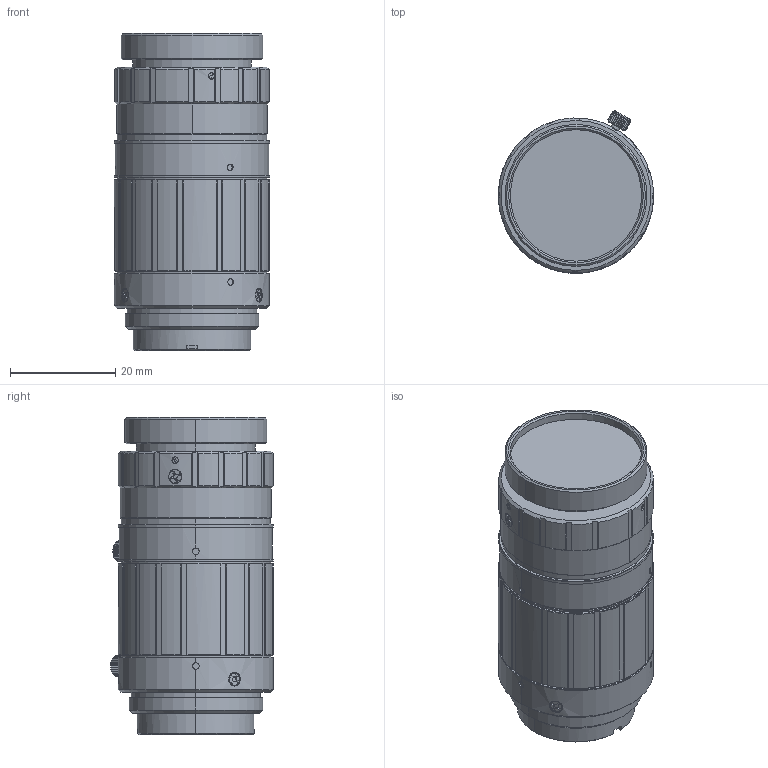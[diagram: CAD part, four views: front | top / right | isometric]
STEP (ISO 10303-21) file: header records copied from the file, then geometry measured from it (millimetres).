
FILE_DESCRIPTION (( 'STEP AP214' ), '1' );
FILE_NAME ('HF8XA-5M_3D_Modeling_20170120_ver1.0.STEP', '2017-01-20T06:28:42', ( '富士フイルム株式会社' ), ( '富士フイルム株式会社' ), 'SwSTEP 2.0', 'SolidWorks 2014', '' );
FILE_SCHEMA (( 'AUTOMOTIVE_DESIGN' ));
Length unit declared in the file: millimetre
Products named in the file (1): HF8XA-5M_3D_Modeling_20170120_ver1.0
Bounding box: 29.5 x 30.97 x 60.3 mm (x, y, z)
Volume: 36878.6 mm3; surface area: 8323.4 mm2
Topology: 1 solids, 1 shells, 552 faces, 1505 edges, 988 vertices
Faces by surface type: plane 313, cylinder 127, cone 112
Entity records: 24398 total; most frequent: CARTESIAN_POINT 5223, ORIENTED_EDGE 3006, DIRECTION 2328, EDGE_CURVE 1503, VERTEX_POINT 988, AXIS2_PLACEMENT_3D 849, LINE 630, VECTOR 630
